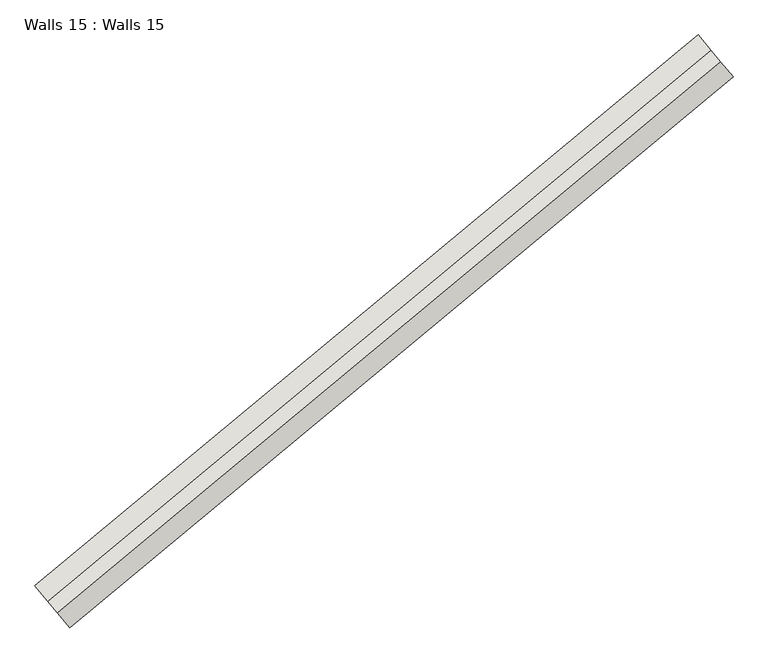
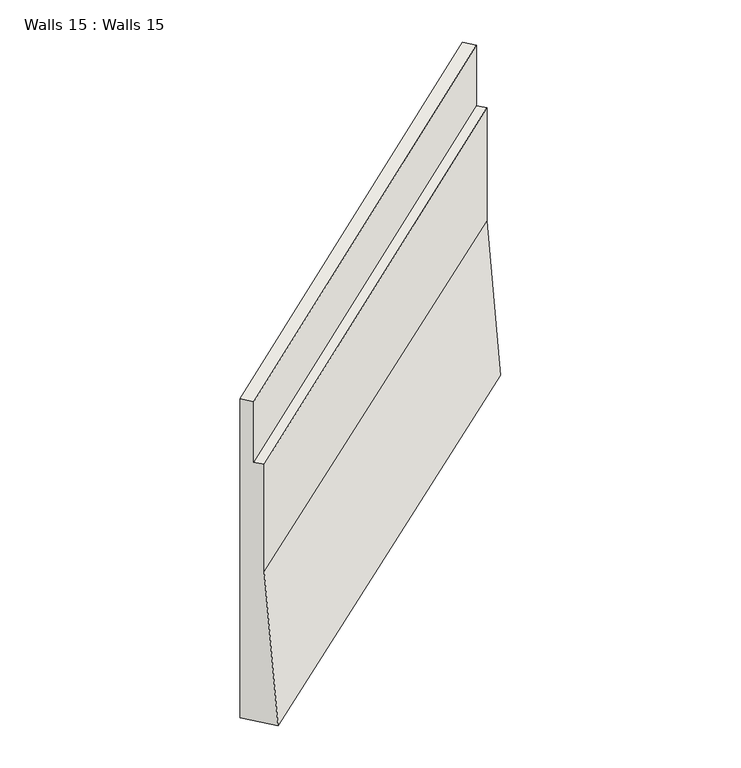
"""IFC4 building model written with IfcOpenShell, lengths in millimetres: wall geometry, Walls 15 : Walls 15."""

from ifc_helpers import new_model, si_unit, origin, place, context, project, spatial, faceted_brep, source, transform, mapped, element, save


def walls_15_walls_15_aa881e35(model_context):
    return source(origin(), model_context, "Body", "Brep", [
        faceted_brep([(-265614.684276, -422604.241159, 640320.0), (-265614.684276, -422604.241159, 635050.0), (-265263.2707292, -423027.3273238, 635050.0), (-265391.0574735, -422873.4778093, 637550.0), (-265391.0574735, -422873.4778093, 639320.0), (-265486.8975317, -422758.0906735, 639320.0), (-265486.8975317, -422758.0906735, 640320.0), (-258922.2408768, -417045.5264863, 640500.0), (-258794.4541325, -417199.3760007, 640500.0), (-258794.4541325, -417199.3760007, 639500.0), (-258698.6140742, -417314.7631366, 639500.0), (-258698.6140742, -417314.7631366, 637630.0), (-258570.8273299, -417468.612651, 635130.0), (-258922.2408768, -417045.5264863, 635130.0)], [[[0, 1, 2, 3, 4, 5, 6]], [[7, 8, 9, 10, 11, 12, 13]], [[7, 13, 1, 0]], [[13, 12, 2, 1]], [[12, 11, 3, 2]], [[11, 10, 4, 3]], [[10, 9, 5, 4]], [[9, 8, 6, 5]], [[8, 7, 0, 6]]]),
    ])


if __name__ == "__main__":
    model = new_model("IFC4")
    model_context = context("Model", 3, world=origin())
    ifc_project = project(units=[si_unit("LENGTHUNIT", "METRE", prefix="MILLI")], contexts=[model_context])
    site = spatial("IfcSite", under=ifc_project)
    building = spatial("IfcBuilding", under=site)
    placement = place(None, origin())
    walls_15_walls_15_shape = walls_15_walls_15_aa881e35(model_context)
    element("IfcWall", 1, ObjectType="Walls 15 : Walls 15", at=placement, inside=building, context=model_context, shape_type="MappedRepresentation", body=[
        mapped(walls_15_walls_15_shape, transform((0.0, 0.0, 0.0), x_axis=(1.0, 0.0, 0.0), y_axis=(0.0, 1.0, 0.0), z_axis=(0.0, 0.0, 1.0))),
    ])
    save(model, "model.ifc")
